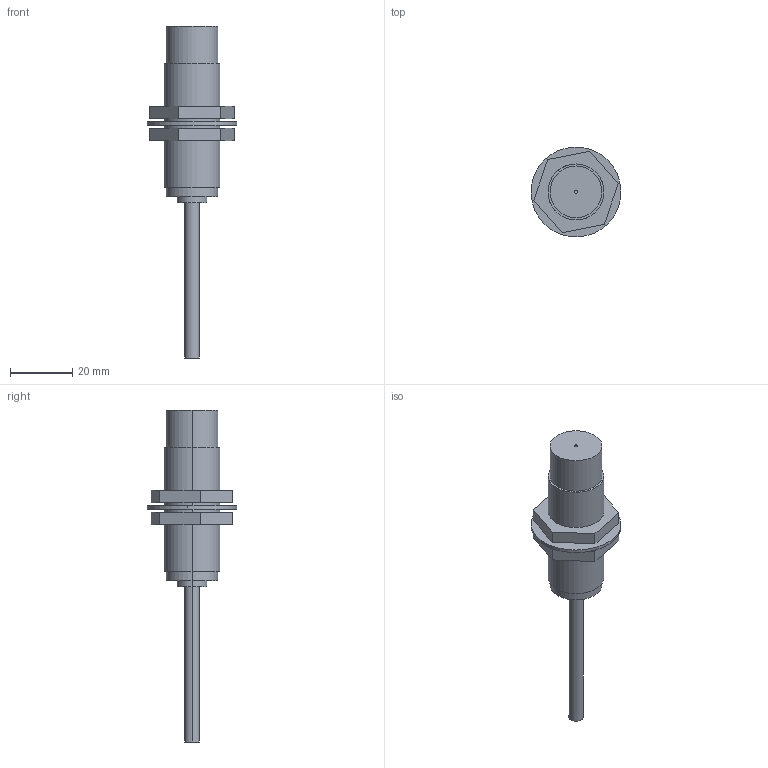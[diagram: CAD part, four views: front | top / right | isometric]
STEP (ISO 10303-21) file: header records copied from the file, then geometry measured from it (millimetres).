
FILE_DESCRIPTION (( 'STEP AP203' ), '1' );
FILE_NAME ('gx-118mlk.STEP', '2017-05-18T02:11:49', ( '' ), ( '' ), 'SwSTEP 2.0', 'SolidWorks 2014', '' );
FILE_SCHEMA (( 'CONFIG_CONTROL_DESIGN' ));
Length unit declared in the file: millimetre
Products named in the file (4): gx-118mlk luomu; gx-118mlk benti; gx-118mlk; gx-118mlk dianpian
Assembly tree (4 placements, depth 2):
  gx-118mlk
    gx-118mlk benti
    gx-118mlk dianpian
    gx-118mlk luomu  x2
Bounding box: 28.93 x 28.93 x 107 mm (x, y, z)
Volume: 16863.5 mm3; surface area: 7427.2 mm2
Topology: 4 solids, 4 shells, 60 faces, 126 edges, 84 vertices
Faces by surface type: cylinder 30, plane 30
Entity records: 1796 total; most frequent: DIRECTION 272, CARTESIAN_POINT 227, ORIENTED_EDGE 204, AXIS2_PLACEMENT_3D 113, EDGE_CURVE 102, VERTEX_POINT 68, EDGE_LOOP 64, CIRCLE 56
